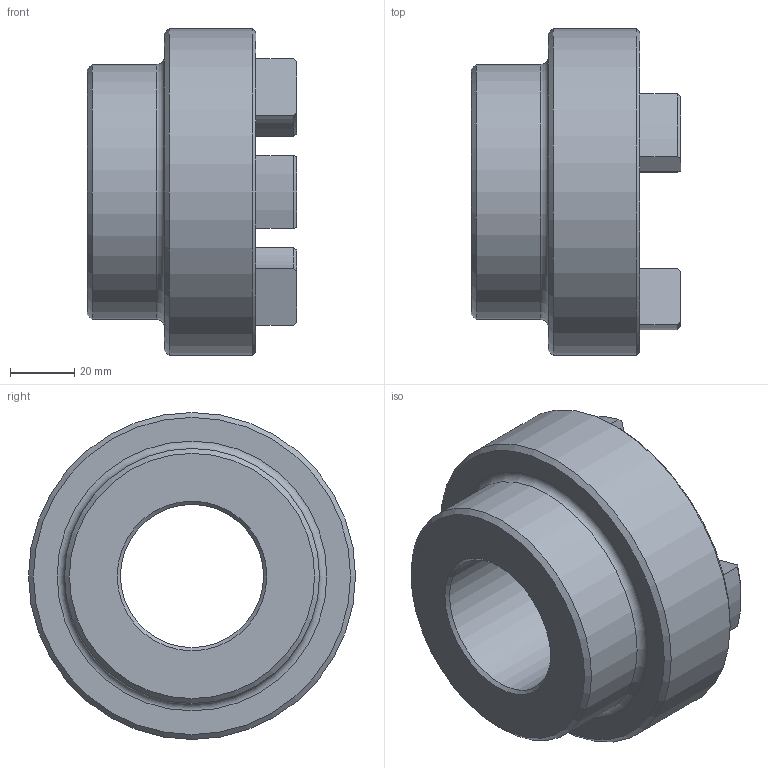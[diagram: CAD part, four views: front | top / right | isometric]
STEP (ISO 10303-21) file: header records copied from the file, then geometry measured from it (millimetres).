
FILE_DESCRIPTION (( 'STEP AP203' ), '1' );
FILE_NAME ('RC4.step', '2024-07-24T17:46:33', ( 'Adlan' ), ( '' ), 'SwSTEP 2.0', 'SolidWorks 2013', '' );
FILE_SCHEMA (( 'CONFIG_CONTROL_DESIGN' ));
Length unit declared in the file: inch
Products named in the file (1): RC4
Bounding box: 65.02 x 101.6 x 101.6 mm (x, y, z)
Volume: 221730.9 mm3; surface area: 40410.8 mm2
Topology: 1 solids, 1 shells, 60 faces, 146 edges, 90 vertices
Faces by surface type: cylinder 24, plane 13, torus 13, cone 10
Full cylindrical faces by diameter (mm): 44.463 x1, 79.248 x1, 101.6 x1
Entity records: 1841 total; most frequent: CARTESIAN_POINT 341, DIRECTION 324, ORIENTED_EDGE 274, EDGE_CURVE 137, AXIS2_PLACEMENT_3D 132, VERTEX_POINT 89, EDGE_LOOP 72, CIRCLE 71
